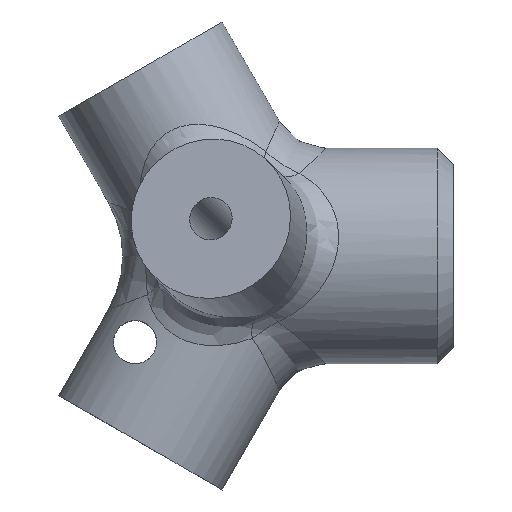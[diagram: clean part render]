
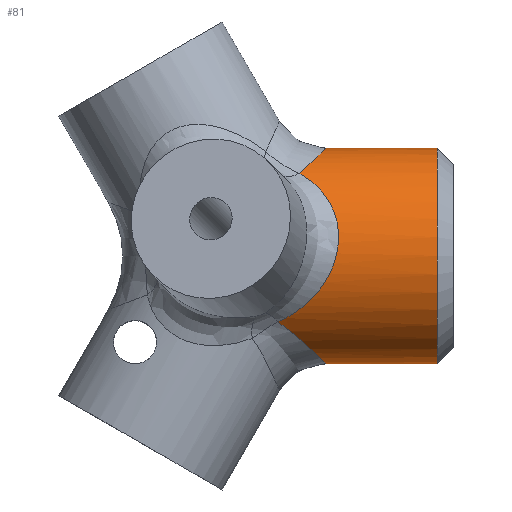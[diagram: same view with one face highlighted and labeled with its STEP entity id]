
A CAD part, top view. The second image highlights one B-rep face of the part: STEP entity #81.
In plain terms, the highlighted cylindrical face has radius 20 mm (diameter 40 mm), a partial arc.
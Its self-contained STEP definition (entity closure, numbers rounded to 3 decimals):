
#81=ADVANCED_FACE('',(#122),#123,.T.);
#122=FACE_OUTER_BOUND('',#559,.T.);
#123=CYLINDRICAL_SURFACE('',#560,20.0);
#559=EDGE_LOOP('',(#2040,#2041,#2042,#2043,#2044,#2045));
#560=AXIS2_PLACEMENT_3D('',#2046,#2047,#2048);
#2040=ORIENTED_EDGE('',*,*,#2226,.F.);
#2041=ORIENTED_EDGE('',*,*,#2227,.T.);
#2042=ORIENTED_EDGE('',*,*,#2228,.F.);
#2043=ORIENTED_EDGE('',*,*,#2229,.T.);
#2044=ORIENTED_EDGE('',*,*,#2230,.T.);
#2045=ORIENTED_EDGE('',*,*,#2231,.T.);
#2046=CARTESIAN_POINT('',(38.0,-14.475,0.));
#2047=DIRECTION('',(-1.0,0.0,0.0));
#2048=DIRECTION('',(0.0,0.0,-1.0));
#2226=EDGE_CURVE('',#2318,#2319,#2320,.T.);
#2227=EDGE_CURVE('',#2318,#2321,#2322,.F.);
#2228=EDGE_CURVE('',#2323,#2321,#2324,.F.);
#2229=EDGE_CURVE('',#2323,#2325,#2326,.T.);
#2230=EDGE_CURVE('',#2325,#2327,#2328,.T.);
#2231=EDGE_CURVE('',#2327,#2319,#2329,.T.);
#2318=VERTEX_POINT('',#2743);
#2319=VERTEX_POINT('',#2744);
#2320=LINE('',#2745,#2746);
#2321=VERTEX_POINT('',#2747);
#2322=CIRCLE('',#2748,20.0);
#2323=VERTEX_POINT('',#2749);
#2324=LINE('',#2750,#2751);
#2325=VERTEX_POINT('',#2752);
#2326=B_SPLINE_CURVE_WITH_KNOTS('',3,(#2753,#2754,#2755,#2756,#2757,#2758,#2759,#2760,#2761,#2762,#2763,#2764,#2765,#2766,#2767,#2768),.UNSPECIFIED.,.F.,.F.,(4,2,2,2,2,2,2,4),(0.,0.004,0.005,0.006,0.008,0.009,0.011,0.015),.UNSPECIFIED.);
#2327=VERTEX_POINT('',#2769);
#2328=B_SPLINE_CURVE_WITH_KNOTS('',3,(#2770,#2771,#2772,#2773,#2774,#2775,#2776,#2777,#2778,#2779,#2780,#2781,#2782,#2783,#2784,#2785,#2786,#2787,#2788,#2789,#2790,#2791,#2792,#2793,#2794,#2795,#2796,#2797,#2798,#2799,#2800,#2801,#2802,#2803,#2804,#2805,#2806,#2807),.UNSPECIFIED.,.F.,.F.,(4,2,2,2,2,2,2,2,2,2,2,2,2,2,2,2,2,2,4),(0.,0.005,0.006,0.007,0.009,0.01,0.012,0.014,0.016,0.019,0.021,0.022,0.023,0.026,0.027,0.028,0.032,0.035,0.037),.UNSPECIFIED.);
#2329=B_SPLINE_CURVE_WITH_KNOTS('',3,(#2808,#2809,#2810,#2811,#2812,#2813,#2814,#2815,#2816,#2817,#2818,#2819,#2820,#2821,#2822,#2823,#2824,#2825,#2826,#2827),.UNSPECIFIED.,.F.,.F.,(4,2,2,2,2,2,2,2,2,4),(0.002,0.005,0.008,0.013,0.014,0.015,0.018,0.019,0.021,0.023),.UNSPECIFIED.);
#2743=CARTESIAN_POINT('',(35.0,-34.475,0.0));
#2744=CARTESIAN_POINT('',(14.434,-34.475,0.0));
#2745=CARTESIAN_POINT('',(38.0,-34.475,0.0));
#2746=VECTOR('',#3059,1.0);
#2747=CARTESIAN_POINT('',(35.0,5.525,0.0));
#2748=AXIS2_PLACEMENT_3D('',#3060,#3061,#3062);
#2749=CARTESIAN_POINT('',(14.434,5.525,0.0));
#2750=CARTESIAN_POINT('',(38.0,5.525,0.0));
#2751=VECTOR('',#3063,1.0);
#2752=CARTESIAN_POINT('',(9.382,0.856,12.844));
#2753=CARTESIAN_POINT('',(14.434,5.525,0.));
#2754=CARTESIAN_POINT('',(14.434,5.525,1.271));
#2755=CARTESIAN_POINT('',(14.311,5.405,2.516));
#2756=CARTESIAN_POINT('',(14.013,5.115,4.041));
#2757=CARTESIAN_POINT('',(13.945,5.05,4.345));
#2758=CARTESIAN_POINT('',(13.798,4.907,4.944));
#2759=CARTESIAN_POINT('',(13.717,4.829,5.239));
#2760=CARTESIAN_POINT('',(13.456,4.578,6.111));
#2761=CARTESIAN_POINT('',(13.257,4.387,6.677));
#2762=CARTESIAN_POINT('',(12.808,3.96,7.778));
#2763=CARTESIAN_POINT('',(12.559,3.724,8.314));
#2764=CARTESIAN_POINT('',(12.023,3.223,9.334));
#2765=CARTESIAN_POINT('',(11.736,2.956,9.821));
#2766=CARTESIAN_POINT('',(10.82,2.118,11.219));
#2767=CARTESIAN_POINT('',(10.138,1.505,12.069));
#2768=CARTESIAN_POINT('',(9.382,0.856,12.844));
#2769=CARTESIAN_POINT('',(5.457,-26.716,15.816));
#2770=CARTESIAN_POINT('',(9.382,0.856,12.844));
#2771=CARTESIAN_POINT('',(10.578,0.207,13.618));
#2772=CARTESIAN_POINT('',(11.66,-0.561,14.417));
#2773=CARTESIAN_POINT('',(12.873,-1.709,15.399));
#2774=CARTESIAN_POINT('',(13.109,-1.948,15.594));
#2775=CARTESIAN_POINT('',(13.565,-2.447,15.982));
#2776=CARTESIAN_POINT('',(13.786,-2.708,16.176));
#2777=CARTESIAN_POINT('',(14.419,-3.516,16.744));
#2778=CARTESIAN_POINT('',(14.8,-4.089,17.106));
#2779=CARTESIAN_POINT('',(15.306,-5.005,17.619));
#2780=CARTESIAN_POINT('',(15.463,-5.32,17.785));
#2781=CARTESIAN_POINT('',(15.755,-5.971,18.106));
#2782=CARTESIAN_POINT('',(15.89,-6.307,18.26));
#2783=CARTESIAN_POINT('',(16.251,-7.338,18.698));
#2784=CARTESIAN_POINT('',(16.436,-8.06,18.959));
#2785=CARTESIAN_POINT('',(16.681,-9.528,19.394));
#2786=CARTESIAN_POINT('',(16.742,-10.279,19.57));
#2787=CARTESIAN_POINT('',(16.737,-11.814,19.838));
#2788=CARTESIAN_POINT('',(16.668,-12.604,19.927));
#2789=CARTESIAN_POINT('',(16.41,-14.137,20.012));
#2790=CARTESIAN_POINT('',(16.222,-14.887,20.009));
#2791=CARTESIAN_POINT('',(15.86,-15.988,19.946));
#2792=CARTESIAN_POINT('',(15.726,-16.352,19.915));
#2793=CARTESIAN_POINT('',(15.43,-17.07,19.834));
#2794=CARTESIAN_POINT('',(15.269,-17.426,19.784));
#2795=CARTESIAN_POINT('',(14.756,-18.462,19.611));
#2796=CARTESIAN_POINT('',(14.373,-19.12,19.464));
#2797=CARTESIAN_POINT('',(13.742,-20.062,19.207));
#2798=CARTESIAN_POINT('',(13.523,-20.369,19.114));
#2799=CARTESIAN_POINT('',(13.065,-20.968,18.919));
#2800=CARTESIAN_POINT('',(12.826,-21.261,18.816));
#2801=CARTESIAN_POINT('',(11.598,-22.682,18.279));
#2802=CARTESIAN_POINT('',(10.511,-23.67,17.789));
#2803=CARTESIAN_POINT('',(8.724,-24.966,17.035));
#2804=CARTESIAN_POINT('',(8.099,-25.367,16.78));
#2805=CARTESIAN_POINT('',(6.812,-26.095,16.284));
#2806=CARTESIAN_POINT('',(6.147,-26.423,16.043));
#2807=CARTESIAN_POINT('',(5.457,-26.716,15.816));
#2808=CARTESIAN_POINT('',(5.457,-26.716,15.816));
#2809=CARTESIAN_POINT('',(6.105,-27.172,15.463));
#2810=CARTESIAN_POINT('',(6.723,-27.637,15.072));
#2811=CARTESIAN_POINT('',(7.905,-28.566,14.207));
#2812=CARTESIAN_POINT('',(8.471,-29.031,13.733));
#2813=CARTESIAN_POINT('',(10.089,-30.403,12.175));
#2814=CARTESIAN_POINT('',(11.029,-31.253,10.994));
#2815=CARTESIAN_POINT('',(12.032,-32.181,9.307));
#2816=CARTESIAN_POINT('',(12.224,-32.36,8.959));
#2817=CARTESIAN_POINT('',(12.589,-32.703,8.24));
#2818=CARTESIAN_POINT('',(12.762,-32.867,7.868));
#2819=CARTESIAN_POINT('',(13.245,-33.324,6.735));
#2820=CARTESIAN_POINT('',(13.52,-33.588,5.949));
#2821=CARTESIAN_POINT('',(13.858,-33.914,4.72));
#2822=CARTESIAN_POINT('',(13.958,-34.012,4.3));
#2823=CARTESIAN_POINT('',(14.13,-34.178,3.458));
#2824=CARTESIAN_POINT('',(14.201,-34.248,3.033));
#2825=CARTESIAN_POINT('',(14.374,-34.417,1.75));
#2826=CARTESIAN_POINT('',(14.434,-34.475,0.882));
#2827=CARTESIAN_POINT('',(14.434,-34.475,0.));
#3059=DIRECTION('',(-1.0,0.0,0.0));
#3060=CARTESIAN_POINT('',(35.0,-14.475,0.));
#3061=DIRECTION('',(1.0,0.0,0.0));
#3062=DIRECTION('',(0.0,0.0,-1.0));
#3063=DIRECTION('',(-1.0,0.0,0.0));
